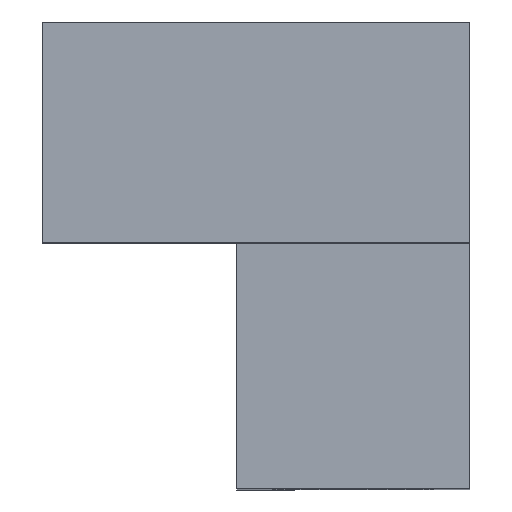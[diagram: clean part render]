
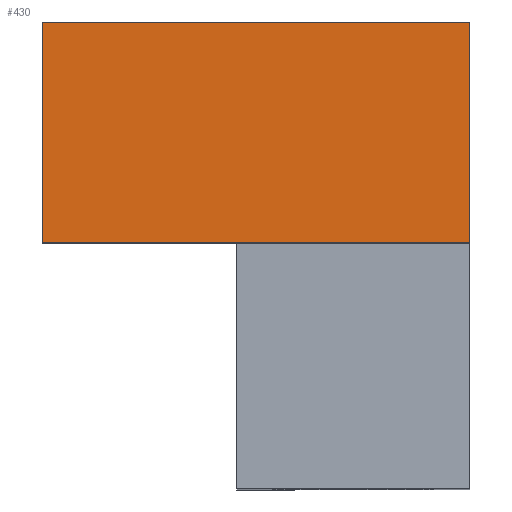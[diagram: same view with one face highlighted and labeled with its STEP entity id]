
A CAD part, top view. The second image highlights one B-rep face of the part: STEP entity #430.
In plain terms, the highlighted planar face has unit normal (0, 0, 1).
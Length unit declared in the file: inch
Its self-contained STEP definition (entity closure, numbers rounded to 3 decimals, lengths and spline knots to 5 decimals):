
#26 = LINE ( 'NONE', #370, #522 ) ;
#43 = DIRECTION ( 'NONE',  ( 0., -1., 0. ) ) ;
#44 = CARTESIAN_POINT ( 'NONE',  ( 0.16607, 0.75, 0.97566 ) ) ;
#48 = CARTESIAN_POINT ( 'NONE',  ( -0.52193, 0.75, 0.97566 ) ) ;
#57 = LINE ( 'NONE', #48, #313 ) ;
#85 = PLANE ( 'NONE',  #289 ) ;
#105 = CARTESIAN_POINT ( 'NONE',  ( 0.16607, 0.395, 0.97566 ) ) ;
#115 = VERTEX_POINT ( 'NONE', #351 ) ;
#128 = DIRECTION ( 'NONE',  ( -1., 0., 0. ) ) ;
#158 = VERTEX_POINT ( 'NONE', #105 ) ;
#198 = EDGE_CURVE ( 'NONE', #419, #379, #461, .T. ) ;
#237 = ORIENTED_EDGE ( 'NONE', *, *, #198, .F. ) ;
#249 = ORIENTED_EDGE ( 'NONE', *, *, #312, .T. ) ;
#250 = FACE_OUTER_BOUND ( 'NONE', #453, .T. ) ;
#267 = VECTOR ( 'NONE', #285, 39.37008 ) ;
#270 = EDGE_CURVE ( 'NONE', #158, #115, #378, .T. ) ;
#285 = DIRECTION ( 'NONE',  ( -1., 0., 0. ) ) ;
#287 = ORIENTED_EDGE ( 'NONE', *, *, #398, .F. ) ;
#289 = AXIS2_PLACEMENT_3D ( 'NONE', #452, #451, #128 ) ;
#312 = EDGE_CURVE ( 'NONE', #419, #115, #57, .T. ) ;
#313 = VECTOR ( 'NONE', #332, 39.37008 ) ;
#332 = DIRECTION ( 'NONE',  ( 0., -1., 0. ) ) ;
#351 = CARTESIAN_POINT ( 'NONE',  ( -0.52193, 0.395, 0.97566 ) ) ;
#352 = VECTOR ( 'NONE', #390, 39.37008 ) ;
#370 = CARTESIAN_POINT ( 'NONE',  ( 0.16607, 0.75, 0.97566 ) ) ;
#378 = LINE ( 'NONE', #382, #267 ) ;
#379 = VERTEX_POINT ( 'NONE', #44 ) ;
#382 = CARTESIAN_POINT ( 'NONE',  ( 0.16607, 0.395, 0.97566 ) ) ;
#388 = CARTESIAN_POINT ( 'NONE',  ( -0.52193, 0.75, 0.97566 ) ) ;
#390 = DIRECTION ( 'NONE',  ( 1., 0., 0. ) ) ;
#398 = EDGE_CURVE ( 'NONE', #379, #158, #26, .T. ) ;
#419 = VERTEX_POINT ( 'NONE', #546 ) ;
#430 = ADVANCED_FACE ( 'NONE', ( #250 ), #85, .F. ) ;
#438 = ORIENTED_EDGE ( 'NONE', *, *, #270, .F. ) ;
#451 = DIRECTION ( 'NONE',  ( 0., 0., -1. ) ) ;
#452 = CARTESIAN_POINT ( 'NONE',  ( -0.52193, 0.75, 0.97566 ) ) ;
#453 = EDGE_LOOP ( 'NONE', ( #249, #438, #287, #237 ) ) ;
#461 = LINE ( 'NONE', #388, #352 ) ;
#522 = VECTOR ( 'NONE', #43, 39.37008 ) ;
#546 = CARTESIAN_POINT ( 'NONE',  ( -0.52193, 0.75, 0.97566 ) ) ;
